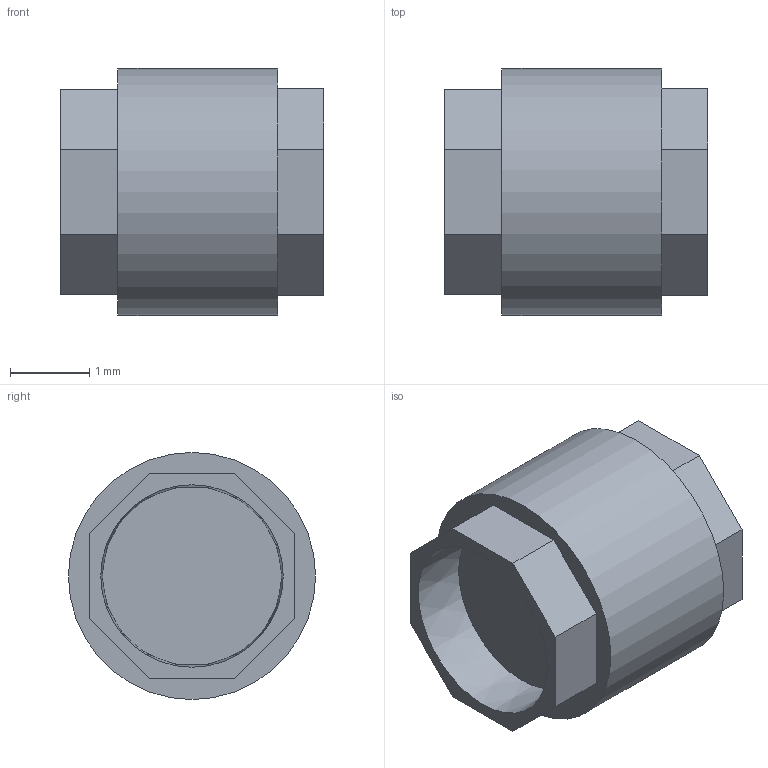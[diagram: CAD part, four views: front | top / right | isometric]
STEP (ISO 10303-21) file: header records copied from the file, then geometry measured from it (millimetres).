
FILE_DESCRIPTION(('Open CASCADE Model'),'2;1');
FILE_NAME('Open CASCADE Shape Model','2021-09-28T16:14:36',('Author'),( 'Open CASCADE'),'Open CASCADE STEP processor 7.3','Open CASCADE 7.3' ,'Unknown');
FILE_SCHEMA(('AUTOMOTIVE_DESIGN { 1 0 10303 214 1 1 1 1 }'));
Length unit declared in the file: millimetre
Products named in the file (1): Open CASCADE STEP translator 7.3 1
Bounding box: 3.31 x 3.11 x 3.11 mm (x, y, z)
Volume: 16.9 mm3; surface area: 55.7 mm2
Topology: 1 solids, 1 shells, 25 faces, 57 edges, 38 vertices
Faces by surface type: plane 22, cone 2, cylinder 1
Full cylindrical faces by diameter (mm): 3.11 x1
Entity records: 1454 total; most frequent: CARTESIAN_POINT 256, DIRECTION 223, LINE 156, VECTOR 156, ORIENTED_EDGE 114, PCURVE 114, DEFINITIONAL_REPRESENTATION 114, EDGE_CURVE 57
